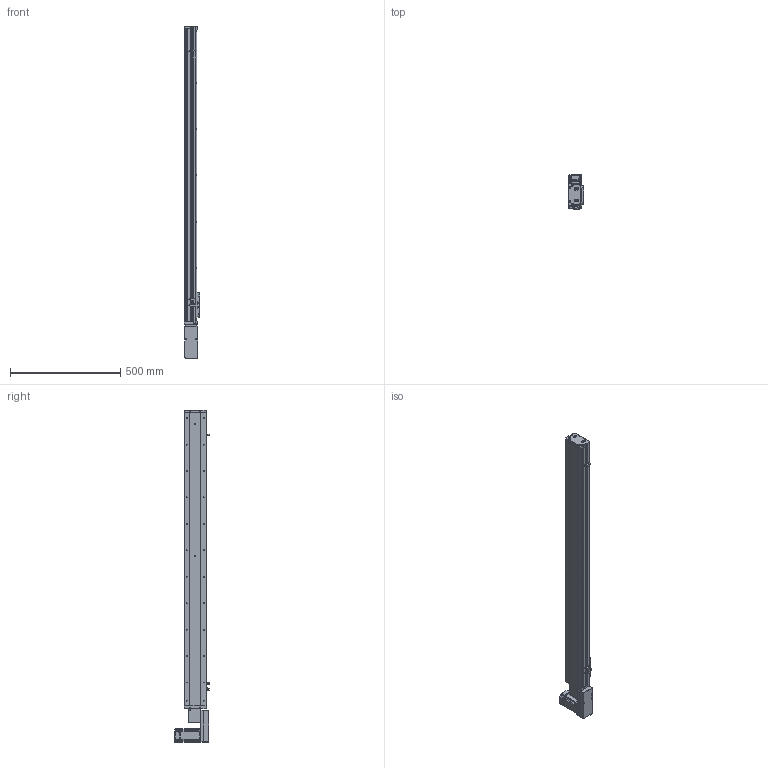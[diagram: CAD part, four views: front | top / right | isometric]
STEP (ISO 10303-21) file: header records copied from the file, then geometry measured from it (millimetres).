
FILE_DESCRIPTION (( 'STEP AP214' ), '1' );
FILE_NAME ('KSD100B-S1150-MRB-CR.STEP', '2019-11-13T06:20:48', ( '微软用户' ), ( '微软中国' ), 'SwSTEP 2.0', 'SolidWorks 2014', '' );
FILE_SCHEMA (( 'AUTOMOTIVE_DESIGN' ));
Length unit declared in the file: millimetre
Products named in the file (15): 100宽马达安装板连板上下折丝杆同步带; U倰嫖萇EEㄜSX672; 感应片100宽全封闭; 100宽马达安装板同步带右; 100遵鎮湛假蚾啣蜊; 100宽端板同步带全封闭; MHMD042G1CA_2_03; 100宽滚珠螺姆安装板1防护罩; 100宽滚珠螺姆安装板1; 100遵裔啣揤啣; 100遵裔啣1150俴最; 100宽侧板1150行程同步带; 100宽底板全封闭1150行程同步带; KSD100B-S1150-MRB-CR; 悵誘欶奻狟殏
Assembly tree (18 placements, depth 2):
  KSD100B-S1150-MRB-CR
    100宽底板全封闭1150行程同步带
    100宽侧板1150行程同步带  x2
    100遵裔啣1150俴最
    100遵裔啣揤啣  x2
    100宽滚珠螺姆安装板1
    100宽滚珠螺姆安装板1防护罩
    100宽端板同步带全封闭
    100遵鎮湛假蚾啣蜊
    100宽马达安装板同步带右
    感应片100宽全封闭
    U倰嫖萇EEㄜSX672  x3
    100宽马达安装板连板上下折丝杆同步带
    悵誘欶奻狟殏
    MHMD042G1CA_2_03
Bounding box: 70 x 156.2 x 1507 mm (x, y, z)
Volume: 2770662 mm3; surface area: 1222357.8 mm2
Topology: 17 solids, 18 shells, 1869 faces, 5224 edges, 3323 vertices
Faces by surface type: cylinder 845, plane 737, cone 267, bspline 20
Entity records: 66400 total; most frequent: CARTESIAN_POINT 10226, DIRECTION 9092, ORIENTED_EDGE 8368, EDGE_CURVE 4256, AXIS2_PLACEMENT_3D 3307, VERTEX_POINT 2821, LINE 2478, VECTOR 2478
